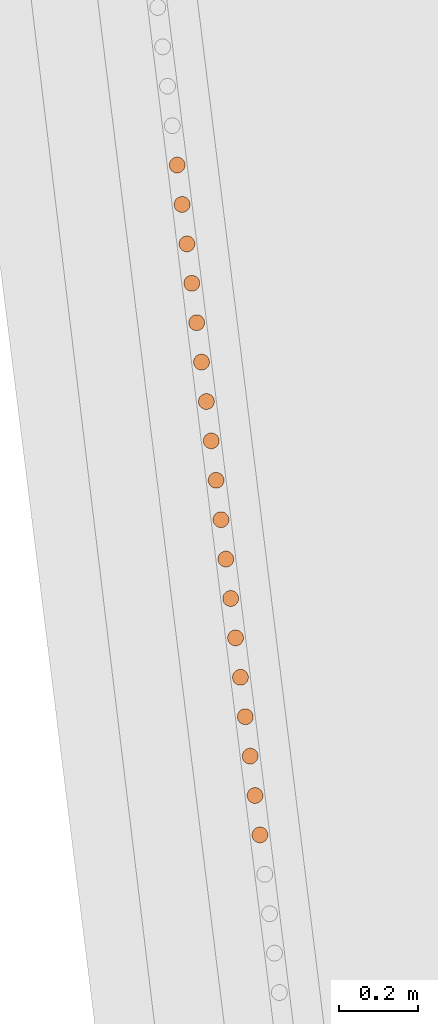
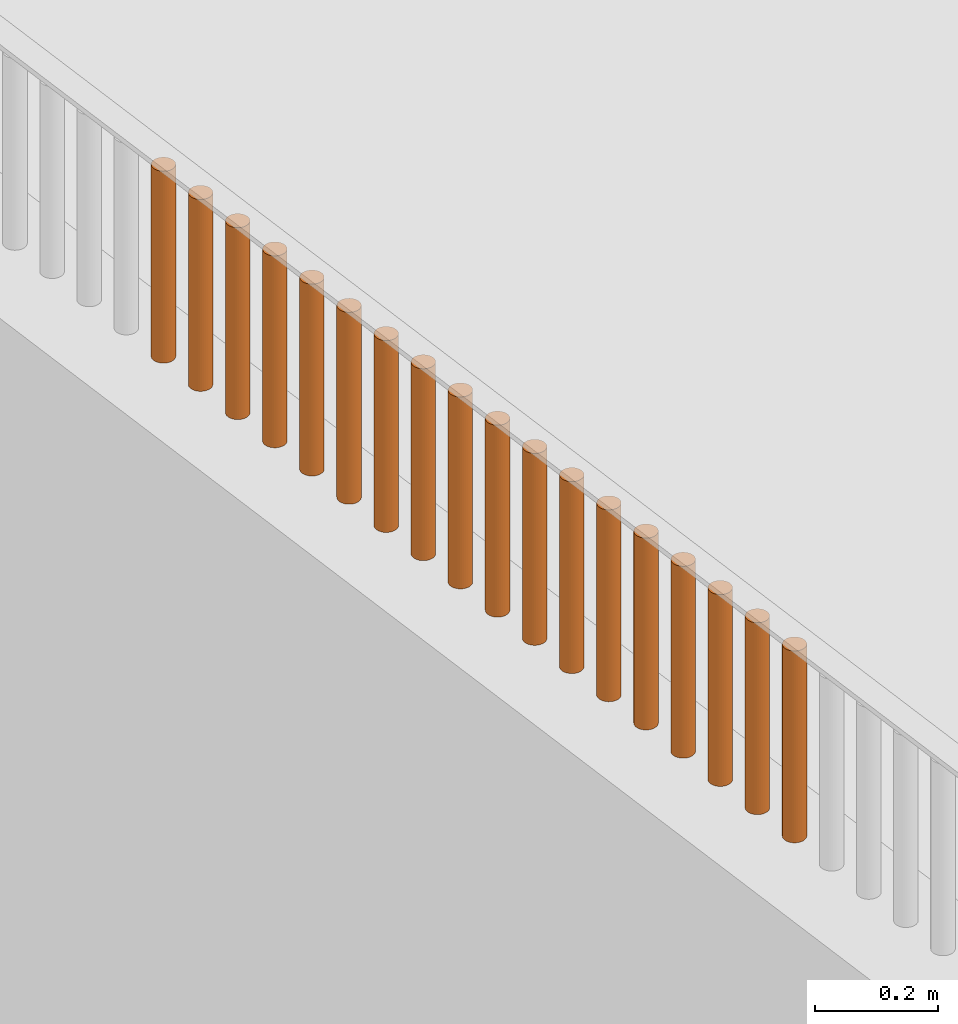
# One storey, part 221 of 1809: 18 proxies, 1 element without a shape of its own.
"""IFC2X3 building model written with IfcOpenShell, lengths in millimetres."""

from ifc_helpers import new_model, entity, si_unit, converted_unit, derived_unit, money_unit, direction, frame, origin_with_axes, place, context, subcontext, project, spatial, faceted_brep, source, transform, mapped, material, type_object, element, aggregate, save


model = new_model("IFC2X3")

# Units and contexts
model_context = context("Model", 3, precision=0.01, world=origin_with_axes(), true_north=direction((0.0, 1.0)))
body_context = subcontext(model_context, "Body", "Model", "MODEL_VIEW")
ifc_project = project(units=[si_unit("LENGTHUNIT", "METRE", prefix="MILLI"), si_unit("AREAUNIT", "SQUARE_METRE"), si_unit("VOLUMEUNIT", "CUBIC_METRE"), converted_unit("PLANEANGLEUNIT", "DEGREE", entity("IfcPlaneAngleMeasure", 0.0174532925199), si_unit("PLANEANGLEUNIT", "RADIAN"), dimensions=[0, 0, 0, 0, 0, 0, 0]), si_unit("SOLIDANGLEUNIT", "STERADIAN"), money_unit("EUR"), converted_unit("TIMEUNIT", "Year", entity("IfcTimeMeasure", 31556926.0), si_unit("TIMEUNIT", "SECOND"), dimensions=[0, 0, 1, 0, 0, 0, 0]), si_unit("MASSUNIT", "GRAM", prefix="KILO"), si_unit("THERMODYNAMICTEMPERATUREUNIT", "DEGREE_CELSIUS"), si_unit("LUMINOUSINTENSITYUNIT", "LUMEN"), si_unit("ENERGYUNIT", "JOULE", prefix="MEGA"), derived_unit("THERMALCONDUCTANCEUNIT", [(si_unit("POWERUNIT", "WATT"), 1), (si_unit("LENGTHUNIT", "METRE"), -1), (si_unit("THERMODYNAMICTEMPERATUREUNIT", "KELVIN"), -1)]), derived_unit("SPECIFICHEATCAPACITYUNIT", [(si_unit("ENERGYUNIT", "JOULE"), 1), (si_unit("MASSUNIT", "GRAM", prefix="KILO"), -1), (si_unit("THERMODYNAMICTEMPERATUREUNIT", "KELVIN"), -1)]), derived_unit("MASSDENSITYUNIT", [(si_unit("MASSUNIT", "GRAM", prefix="KILO"), 1), (si_unit("VOLUMEUNIT", "CUBIC_METRE"), -1)])], contexts=[model_context])

# Site, building, storey
site_placement = place(None, origin_with_axes())
site = spatial("IfcSite", under=ifc_project, at=site_placement, Name="Politse- ja Piirivalveameti ning Päästeameti ühishoone", CompositionType="ELEMENT")
building_placement = place(site_placement, origin_with_axes())
building = spatial("IfcBuilding", under=site, at=building_placement, Name="Politse- ja Piirivalveameti ning Päästeameti ühishoone", CompositionType="ELEMENT")
storey_placement = place(building_placement, origin_with_axes())
storey = spatial("IfcBuildingStorey", under=building, at=storey_placement, Name="Esimene korrus", CompositionType="ELEMENT", Elevation=0.0)

# Proxies
building_element_proxy_type_1 = type_object("IfcBuildingElementProxyType", Name="Railing Type", PredefinedType="NOTDEFINED")
proxy_1_placement = place(storey_placement, frame((-18956.5522504, -53688.4757966, 2100.0), z_axis=(0.0, 0.0, 1.0), x_axis=(1.0, 0.0, 0.0)))
proxy_1 = element("IfcBuildingElementProxy", 1, at=proxy_1_placement, inside=storey, type_object=building_element_proxy_type_1, Name="PIIRDEAED")
ifc_material = material(Name="ET-06_Teras - Konstruktsioon")
building_element_proxy_type_2 = type_object("IfcBuildingElementProxyType", Name="IfcBuildingElementProxy", PredefinedType="NOTDEFINED")
shared_shape_1 = source(origin_with_axes(), body_context, "Body", "Brep", [
    faceted_brep([(0.0, -20.0, 0.0), (3.47296355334, -19.6961550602, 0.0), (3.47296355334, -19.6961550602, 380.000012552), (0.0, -20.0, 380.000012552), (-3.47296355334, -19.6961550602, 0.0), (-6.84040286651, -18.7938524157, 0.0), (-10.0, -17.3205080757, 0.0), (-12.8557521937, -15.3208888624, 0.0), (-15.3208888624, -12.8557521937, 0.0), (-17.3205080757, -10.0, 0.0), (-18.7938524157, -6.84040286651, 0.0), (-19.6961550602, -3.47296355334, 0.0), (-20.0, 0.0, 0.0), (-19.6961550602, 3.47296355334, 0.0), (-18.7938524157, 6.84040286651, 0.0), (-17.3205080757, 10.0, 0.0), (-15.3208888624, 12.8557521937, 0.0), (-12.8557521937, 15.3208888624, 0.0), (-10.0, 17.3205080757, 0.0), (-6.84040286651, 18.7938524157, 0.0), (-3.47296355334, 19.6961550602, 0.0), (0.0, 20.0, 0.0), (3.47296355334, 19.6961550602, 0.0), (6.84040286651, 18.7938524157, 0.0), (10.0, 17.3205080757, 0.0), (12.8557521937, 15.3208888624, 0.0), (15.3208888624, 12.8557521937, 0.0), (17.3205080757, 10.0, 0.0), (18.7938524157, 6.84040286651, 0.0), (19.6961550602, 3.47296355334, 0.0), (20.0, 0.0, 0.0), (19.6961550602, -3.47296355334, 0.0), (18.7938524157, -6.84040286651, 0.0), (17.3205080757, -10.0, 0.0), (15.3208888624, -12.8557521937, 0.0), (12.8557521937, -15.3208888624, 0.0), (10.0, -17.3205080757, 0.0), (6.84040286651, -18.7938524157, 0.0), (6.84040286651, -18.7938524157, 380.000012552), (10.0, -17.3205080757, 380.000012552), (12.8557521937, -15.3208888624, 380.000012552), (15.3208888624, -12.8557521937, 380.000012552), (17.3205080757, -10.0, 380.000012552), (18.7938524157, -6.84040286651, 380.000012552), (19.6961550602, -3.47296355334, 380.000012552), (20.0, 0.0, 380.000012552), (19.6961550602, 3.47296355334, 380.000012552), (18.7938524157, 6.84040286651, 380.000012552), (17.3205080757, 10.0, 380.000012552), (15.3208888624, 12.8557521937, 380.000012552), (12.8557521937, 15.3208888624, 380.000012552), (10.0, 17.3205080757, 380.000012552), (6.84040286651, 18.7938524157, 380.000012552), (3.47296355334, 19.6961550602, 380.000012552), (0.0, 20.0, 380.000012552), (-3.47296355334, 19.6961550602, 380.000012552), (-6.84040286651, 18.7938524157, 380.000012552), (-10.0, 17.3205080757, 380.000012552), (-12.8557521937, 15.3208888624, 380.000012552), (-15.3208888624, 12.8557521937, 380.000012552), (-17.3205080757, 10.0, 380.000012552), (-18.7938524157, 6.84040286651, 380.000012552), (-19.6961550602, 3.47296355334, 380.000012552), (-20.0, 0.0, 380.000012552), (-19.6961550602, -3.47296355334, 380.000012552), (-18.7938524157, -6.84040286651, 380.000012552), (-17.3205080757, -10.0, 380.000012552), (-15.3208888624, -12.8557521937, 380.000012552), (-12.8557521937, -15.3208888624, 380.000012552), (-10.0, -17.3205080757, 380.000012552), (-6.84040286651, -18.7938524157, 380.000012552), (-3.47296355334, -19.6961550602, 380.000012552)], [[[0, 1, 2, 3]], [[0, 4, 5, 6, 7, 8, 9, 10, 11, 12, 13, 14, 15, 16, 17, 18, 19, 20, 21, 22, 23, 24, 25, 26, 27, 28, 29, 30, 31, 32, 33, 34, 35, 36, 37, 1]], [[1, 37, 38, 2]], [[3, 2, 38, 39, 40, 41, 42, 43, 44, 45, 46, 47, 48, 49, 50, 51, 52, 53, 54, 55, 56, 57, 58, 59, 60, 61, 62, 63, 64, 65, 66, 67, 68, 69, 70, 71]], [[4, 0, 3, 71]], [[5, 4, 71, 70]], [[6, 5, 70, 69]], [[7, 6, 69, 68]], [[8, 7, 68, 67]], [[9, 8, 67, 66]], [[10, 9, 66, 65]], [[11, 10, 65, 64]], [[12, 11, 64, 63]], [[13, 12, 63, 62]], [[14, 13, 62, 61]], [[15, 14, 61, 60]], [[16, 15, 60, 59]], [[17, 16, 59, 58]], [[18, 17, 58, 57]], [[19, 18, 57, 56]], [[20, 19, 56, 55]], [[21, 20, 55, 54]], [[22, 21, 54, 53]], [[23, 22, 53, 52]], [[24, 23, 52, 51]], [[25, 24, 51, 50]], [[26, 25, 50, 49]], [[27, 26, 49, 48]], [[28, 27, 48, 47]], [[29, 28, 47, 46]], [[30, 29, 46, 45]], [[31, 30, 45, 44]], [[32, 31, 44, 43]], [[33, 32, 43, 42]], [[34, 33, 42, 41]], [[35, 34, 41, 40]], [[36, 35, 40, 39]], [[37, 36, 39, 38]]]),
])
proxy_2_placement = place(proxy_1_placement, frame((-4404.21497214, 34846.8369069, -1.25517001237e-05), z_axis=(0.0, 0.0, 1.0), x_axis=(1.0, 0.0, 0.0)))
proxy_2 = element("IfcBuildingElementProxy", 2, at=proxy_2_placement, type_object=building_element_proxy_type_2, material=ifc_material, Name="BALUSTER - 001", context=body_context, shape_type="MappedRepresentation", body=[
    mapped(shared_shape_1, transform((0.0, 0.0, 0.0), x_axis=(0.992468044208, 0.122503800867, 0.0), y_axis=(-0.122503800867, 0.992468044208, 0.0), z_axis=(0.0, 0.0, 1.0))),
])
proxy_3_placement = place(proxy_1_placement, frame((-4428.71038197, 35045.2871697, -1.25517001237e-05), z_axis=(0.0, 0.0, 1.0), x_axis=(1.0, 0.0, 0.0)))
proxy_3 = element("IfcBuildingElementProxy", 3, at=proxy_3_placement, type_object=building_element_proxy_type_2, material=ifc_material, Name="BALUSTER - 001", context=body_context, shape_type="MappedRepresentation", body=[
    mapped(shared_shape_1, transform((0.0, 0.0, 0.0), x_axis=(0.992468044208, 0.122503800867, 0.0), y_axis=(-0.122503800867, 0.992468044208, 0.0), z_axis=(0.0, 0.0, 1.0))),
])
proxy_4_placement = place(proxy_1_placement, frame((-4514.44431636, 35739.8630897, -1.25517001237e-05), z_axis=(0.0, 0.0, 1.0), x_axis=(1.0, 0.0, 0.0)))
proxy_4 = element("IfcBuildingElementProxy", 4, at=proxy_4_placement, type_object=building_element_proxy_type_2, material=ifc_material, Name="BALUSTER - 001", context=body_context, shape_type="MappedRepresentation", body=[
    mapped(shared_shape_1, transform((0.0, 0.0, 0.0), x_axis=(0.992468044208, 0.122503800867, 0.0), y_axis=(-0.122503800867, 0.992468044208, 0.0), z_axis=(0.0, 0.0, 1.0))),
])
proxy_5_placement = place(proxy_1_placement, frame((-4538.93972619, 35938.3133525, -1.25517001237e-05), z_axis=(0.0, 0.0, 1.0), x_axis=(1.0, 0.0, 0.0)))
proxy_5 = element("IfcBuildingElementProxy", 5, at=proxy_5_placement, type_object=building_element_proxy_type_2, material=ifc_material, Name="BALUSTER - 001", context=body_context, shape_type="MappedRepresentation", body=[
    mapped(shared_shape_1, transform((0.0, 0.0, 0.0), x_axis=(0.992468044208, 0.122503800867, 0.0), y_axis=(-0.122503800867, 0.992468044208, 0.0), z_axis=(0.0, 0.0, 1.0))),
])
proxy_6_placement = place(proxy_1_placement, frame((-4551.1874311, 36037.538484, -1.25517001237e-05), z_axis=(0.0, 0.0, 1.0), x_axis=(1.0, 0.0, 0.0)))
proxy_6 = element("IfcBuildingElementProxy", 6, at=proxy_6_placement, type_object=building_element_proxy_type_2, material=ifc_material, Name="BALUSTER - 001", context=body_context, shape_type="MappedRepresentation", body=[
    mapped(shared_shape_1, transform((0.0, 0.0, 0.0), x_axis=(0.992468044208, 0.122503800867, 0.0), y_axis=(-0.122503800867, 0.992468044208, 0.0), z_axis=(0.0, 0.0, 1.0))),
])
proxy_7_placement = place(proxy_1_placement, frame((-4563.43513601, 36136.7636154, -1.25517001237e-05), z_axis=(0.0, 0.0, 1.0), x_axis=(1.0, 0.0, 0.0)))
proxy_7 = element("IfcBuildingElementProxy", 7, at=proxy_7_placement, type_object=building_element_proxy_type_2, material=ifc_material, Name="BALUSTER - 001", context=body_context, shape_type="MappedRepresentation", body=[
    mapped(shared_shape_1, transform((0.0, 0.0, 0.0), x_axis=(0.992468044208, 0.122503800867, 0.0), y_axis=(-0.122503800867, 0.992468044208, 0.0), z_axis=(0.0, 0.0, 1.0))),
])
proxy_8_placement = place(proxy_1_placement, frame((-4587.93054584, 36335.2138782, -1.25517001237e-05), z_axis=(0.0, 0.0, 1.0), x_axis=(1.0, 0.0, 0.0)))
proxy_8 = element("IfcBuildingElementProxy", 8, at=proxy_8_placement, type_object=building_element_proxy_type_2, material=ifc_material, Name="BALUSTER - 001", context=body_context, shape_type="MappedRepresentation", body=[
    mapped(shared_shape_1, transform((0.0, 0.0, 0.0), x_axis=(0.992468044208, 0.122503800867, 0.0), y_axis=(-0.122503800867, 0.992468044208, 0.0), z_axis=(0.0, 0.0, 1.0))),
])
shared_shape_2 = source(origin_with_axes(), body_context, "Body", "Brep", [
    faceted_brep([(0.0, -20.0, 0.0), (3.47296355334, -19.6961550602, 0.0), (3.47296355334, -19.6961550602, 380.000012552), (0.0, -20.0, 380.000012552), (-3.47296355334, -19.6961550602, 0.0), (-6.84040286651, -18.7938524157, 0.0), (-10.0, -17.3205080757, 0.0), (-12.8557521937, -15.3208888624, 0.0), (-15.3208888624, -12.8557521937, 0.0), (-17.3205080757, -10.0, 0.0), (-18.7938524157, -6.84040286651, 0.0), (-19.6961550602, -3.47296355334, 0.0), (-20.0, 0.0, 0.0), (-19.6961550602, 3.47296355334, 0.0), (-18.7938524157, 6.84040286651, 0.0), (-17.3205080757, 10.0, 0.0), (-15.3208888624, 12.8557521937, 0.0), (-12.8557521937, 15.3208888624, 0.0), (-10.0, 17.3205080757, 0.0), (-6.84040286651, 18.7938524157, 0.0), (-3.47296355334, 19.6961550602, 0.0), (0.0, 20.0, 0.0), (3.47296355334, 19.6961550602, 0.0), (6.84040286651, 18.7938524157, 0.0), (10.0, 17.3205080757, 0.0), (12.8557521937, 15.3208888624, 0.0), (15.3208888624, 12.8557521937, 0.0), (17.3205080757, 10.0, 0.0), (18.7938524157, 6.84040286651, 0.0), (19.6961550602, 3.47296355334, 0.0), (20.0, 0.0, 0.0), (19.6961550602, -3.47296355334, 0.0), (18.7938524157, -6.84040286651, 0.0), (17.3205080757, -10.0, 0.0), (15.3208888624, -12.8557521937, 0.0), (12.8557521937, -15.3208888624, 0.0), (10.0, -17.3205080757, 0.0), (6.84040286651, -18.7938524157, 0.0), (6.84040286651, -18.7938524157, 380.000012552), (10.0, -17.3205080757, 380.000012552), (12.8557521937, -15.3208888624, 380.000012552), (15.3208888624, -12.8557521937, 380.000012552), (17.3205080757, -10.0, 380.000012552), (18.7938524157, -6.84040286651, 380.000012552), (19.6961550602, -3.47296355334, 380.000012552), (20.0, 0.0, 380.000012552), (19.6961550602, 3.47296355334, 380.000012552), (18.7938524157, 6.84040286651, 380.000012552), (17.3205080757, 10.0, 380.000012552), (15.3208888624, 12.8557521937, 380.000012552), (12.8557521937, 15.3208888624, 380.000012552), (10.0, 17.3205080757, 380.000012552), (6.84040286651, 18.7938524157, 380.000012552), (3.47296355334, 19.6961550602, 380.000012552), (0.0, 20.0, 380.000012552), (-3.47296355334, 19.6961550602, 380.000012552), (-6.84040286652, 18.7938524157, 380.000012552), (-10.0, 17.3205080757, 380.000012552), (-12.8557521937, 15.3208888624, 380.000012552), (-15.3208888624, 12.8557521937, 380.000012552), (-17.3205080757, 10.0, 380.000012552), (-18.7938524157, 6.84040286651, 380.000012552), (-19.6961550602, 3.47296355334, 380.000012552), (-20.0, 0.0, 380.000012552), (-19.6961550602, -3.47296355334, 380.000012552), (-18.7938524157, -6.84040286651, 380.000012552), (-17.3205080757, -10.0, 380.000012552), (-15.3208888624, -12.8557521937, 380.000012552), (-12.8557521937, -15.3208888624, 380.000012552), (-10.0, -17.3205080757, 380.000012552), (-6.84040286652, -18.7938524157, 380.000012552), (-3.47296355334, -19.6961550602, 380.000012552)], [[[0, 1, 2, 3]], [[0, 4, 5, 6, 7, 8, 9, 10, 11, 12, 13, 14, 15, 16, 17, 18, 19, 20, 21, 22, 23, 24, 25, 26, 27, 28, 29, 30, 31, 32, 33, 34, 35, 36, 37, 1]], [[1, 37, 38, 2]], [[3, 2, 38, 39, 40, 41, 42, 43, 44, 45, 46, 47, 48, 49, 50, 51, 52, 53, 54, 55, 56, 57, 58, 59, 60, 61, 62, 63, 64, 65, 66, 67, 68, 69, 70, 71]], [[4, 0, 3, 71]], [[5, 4, 71, 70]], [[6, 5, 70, 69]], [[7, 6, 69, 68]], [[8, 7, 68, 67]], [[9, 8, 67, 66]], [[10, 9, 66, 65]], [[11, 10, 65, 64]], [[12, 11, 64, 63]], [[13, 12, 63, 62]], [[14, 13, 62, 61]], [[15, 14, 61, 60]], [[16, 15, 60, 59]], [[17, 16, 59, 58]], [[18, 17, 58, 57]], [[19, 18, 57, 56]], [[20, 19, 56, 55]], [[21, 20, 55, 54]], [[22, 21, 54, 53]], [[23, 22, 53, 52]], [[24, 23, 52, 51]], [[25, 24, 51, 50]], [[26, 25, 50, 49]], [[27, 26, 49, 48]], [[28, 27, 48, 47]], [[29, 28, 47, 46]], [[30, 29, 46, 45]], [[31, 30, 45, 44]], [[32, 31, 44, 43]], [[33, 32, 43, 42]], [[34, 33, 42, 41]], [[35, 34, 41, 40]], [[36, 35, 40, 39]], [[37, 36, 39, 38]]]),
])
proxy_9_placement = place(proxy_1_placement, frame((-4391.96726723, 34747.6117754, -1.25517001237e-05), z_axis=(0.0, 0.0, 1.0), x_axis=(1.0, 0.0, 0.0)))
proxy_9 = element("IfcBuildingElementProxy", 9, at=proxy_9_placement, type_object=building_element_proxy_type_2, material=ifc_material, Name="BALUSTER - 001", context=body_context, shape_type="MappedRepresentation", body=[
    mapped(shared_shape_2, transform((0.0, 0.0, 0.0), x_axis=(0.992468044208, 0.122503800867, 0.0), y_axis=(-0.122503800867, 0.992468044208, 0.0), z_axis=(0.0, 0.0, 1.0))),
])
proxy_10_placement = place(proxy_1_placement, frame((-4416.46267706, 34946.0620383, -1.25517001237e-05), z_axis=(0.0, 0.0, 1.0), x_axis=(1.0, 0.0, 0.0)))
proxy_10 = element("IfcBuildingElementProxy", 10, at=proxy_10_placement, type_object=building_element_proxy_type_2, material=ifc_material, Name="BALUSTER - 001", context=body_context, shape_type="MappedRepresentation", body=[
    mapped(shared_shape_2, transform((0.0, 0.0, 0.0), x_axis=(0.992468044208, 0.122503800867, 0.0), y_axis=(-0.122503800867, 0.992468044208, 0.0), z_axis=(0.0, 0.0, 1.0))),
])
shared_shape_3 = source(origin_with_axes(), body_context, "Body", "Brep", [
    faceted_brep([(0.0, -20.0, 0.0), (3.47296355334, -19.6961550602, 0.0), (3.47296355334, -19.6961550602, 380.000012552), (0.0, -20.0, 380.000012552), (-3.47296355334, -19.6961550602, 0.0), (-6.84040286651, -18.7938524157, 0.0), (-10.0, -17.3205080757, 0.0), (-12.8557521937, -15.3208888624, 0.0), (-15.3208888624, -12.8557521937, 0.0), (-17.3205080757, -10.0, 0.0), (-18.7938524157, -6.84040286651, 0.0), (-19.6961550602, -3.47296355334, 0.0), (-20.0, 0.0, 0.0), (-19.6961550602, 3.47296355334, 0.0), (-18.7938524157, 6.84040286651, 0.0), (-17.3205080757, 10.0, 0.0), (-15.3208888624, 12.8557521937, 0.0), (-12.8557521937, 15.3208888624, 0.0), (-10.0, 17.3205080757, 0.0), (-6.84040286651, 18.7938524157, 0.0), (-3.47296355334, 19.6961550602, 0.0), (0.0, 20.0, 0.0), (3.47296355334, 19.6961550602, 0.0), (6.84040286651, 18.7938524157, 0.0), (10.0, 17.3205080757, 0.0), (12.8557521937, 15.3208888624, 0.0), (15.3208888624, 12.8557521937, 0.0), (17.3205080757, 10.0, 0.0), (18.7938524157, 6.84040286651, 0.0), (19.6961550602, 3.47296355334, 0.0), (20.0, 0.0, 0.0), (19.6961550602, -3.47296355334, 0.0), (18.7938524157, -6.84040286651, 0.0), (17.3205080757, -10.0, 0.0), (15.3208888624, -12.8557521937, 0.0), (12.8557521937, -15.3208888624, 0.0), (10.0, -17.3205080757, 0.0), (6.84040286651, -18.7938524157, 0.0), (6.84040286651, -18.7938524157, 380.000012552), (10.0, -17.3205080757, 380.000012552), (12.8557521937, -15.3208888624, 380.000012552), (15.3208888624, -12.8557521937, 380.000012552), (17.3205080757, -10.0, 380.000012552), (18.7938524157, -6.84040286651, 380.000012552), (19.6961550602, -3.47296355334, 380.000012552), (20.0, 0.0, 380.000012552), (19.6961550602, 3.47296355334, 380.000012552), (18.7938524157, 6.84040286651, 380.000012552), (17.3205080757, 10.0, 380.000012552), (15.3208888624, 12.8557521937, 380.000012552), (12.8557521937, 15.3208888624, 380.000012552), (10.0, 17.3205080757, 380.000012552), (6.84040286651, 18.7938524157, 380.000012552), (3.47296355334, 19.6961550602, 380.000012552), (0.0, 20.0, 380.000012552), (-3.47296355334, 19.6961550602, 380.000012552), (-6.84040286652, 18.7938524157, 380.000012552), (-10.0, 17.3205080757, 380.000012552), (-12.8557521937, 15.3208888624, 380.000012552), (-15.3208888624, 12.8557521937, 380.000012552), (-17.3205080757, 10.0, 380.000012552), (-18.7938524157, 6.84040286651, 380.000012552), (-19.6961550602, 3.47296355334, 380.000012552), (-20.0, 0.0, 380.000012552), (-19.6961550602, -3.47296355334, 380.000012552), (-18.7938524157, -6.84040286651, 380.000012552), (-17.3205080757, -10.0, 380.000012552), (-15.3208888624, -12.8557521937, 380.000012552), (-12.8557521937, -15.3208888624, 380.000012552), (-10.0, -17.3205080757, 380.000012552), (-6.84040286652, -18.7938524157, 380.000012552), (-3.47296355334, -19.6961550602, 380.000012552)], [[[0, 1, 2, 3]], [[0, 4, 5, 6, 7, 8, 9, 10, 11, 12, 13, 14, 15, 16, 17, 18, 19, 20, 21, 22, 23, 24, 25, 26, 27, 28, 29, 30, 31, 32, 33, 34, 35, 36, 37, 1]], [[1, 37, 38, 2]], [[3, 2, 38, 39, 40, 41, 42, 43, 44, 45, 46, 47, 48, 49, 50, 51, 52, 53, 54, 55, 56, 57, 58, 59, 60, 61, 62, 63, 64, 65, 66, 67, 68, 69, 70, 71]], [[4, 0, 3, 71]], [[5, 4, 71, 70]], [[6, 5, 70, 69]], [[7, 6, 69, 68]], [[8, 7, 68, 67]], [[9, 8, 67, 66]], [[10, 9, 66, 65]], [[11, 10, 65, 64]], [[12, 11, 64, 63]], [[13, 12, 63, 62]], [[14, 13, 62, 61]], [[15, 14, 61, 60]], [[16, 15, 60, 59]], [[17, 16, 59, 58]], [[18, 17, 58, 57]], [[19, 18, 57, 56]], [[20, 19, 56, 55]], [[21, 20, 55, 54]], [[22, 21, 54, 53]], [[23, 22, 53, 52]], [[24, 23, 52, 51]], [[25, 24, 51, 50]], [[26, 25, 50, 49]], [[27, 26, 49, 48]], [[28, 27, 48, 47]], [[29, 28, 47, 46]], [[30, 29, 46, 45]], [[31, 30, 45, 44]], [[32, 31, 44, 43]], [[33, 32, 43, 42]], [[34, 33, 42, 41]], [[35, 34, 41, 40]], [[36, 35, 40, 39]], [[37, 36, 39, 38]]]),
])
proxy_11_placement = place(proxy_1_placement, frame((-4440.95808688, 35144.5123011, -1.25517001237e-05), z_axis=(0.0, 0.0, 1.0), x_axis=(1.0, 0.0, 0.0)))
proxy_11 = element("IfcBuildingElementProxy", 11, at=proxy_11_placement, type_object=building_element_proxy_type_2, material=ifc_material, Name="BALUSTER - 001", context=body_context, shape_type="MappedRepresentation", body=[
    mapped(shared_shape_3, transform((0.0, 0.0, 0.0), x_axis=(0.992468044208, 0.122503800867, 0.0), y_axis=(-0.122503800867, 0.992468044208, 0.0), z_axis=(0.0, 0.0, 1.0))),
])
proxy_12_placement = place(proxy_1_placement, frame((-4600.17825075, 36434.4390097, -1.25517001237e-05), z_axis=(0.0, 0.0, 1.0), x_axis=(1.0, 0.0, 0.0)))
proxy_12 = element("IfcBuildingElementProxy", 12, at=proxy_12_placement, type_object=building_element_proxy_type_2, material=ifc_material, Name="BALUSTER - 001", context=body_context, shape_type="MappedRepresentation", body=[
    mapped(shared_shape_3, transform((0.0, 0.0, 0.0), x_axis=(0.992468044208, 0.122503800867, 0.0), y_axis=(-0.122503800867, 0.992468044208, 0.0), z_axis=(0.0, 0.0, 1.0))),
])
shared_shape_4 = source(origin_with_axes(), body_context, "Body", "Brep", [
    faceted_brep([(0.0, -20.0, 0.0), (3.47296355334, -19.6961550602, 0.0), (3.47296355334, -19.6961550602, 380.000012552), (0.0, -20.0, 380.000012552), (-3.47296355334, -19.6961550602, 0.0), (-6.84040286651, -18.7938524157, 0.0), (-10.0, -17.3205080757, 0.0), (-12.8557521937, -15.3208888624, 0.0), (-15.3208888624, -12.8557521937, 0.0), (-17.3205080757, -10.0, 0.0), (-18.7938524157, -6.84040286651, 0.0), (-19.6961550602, -3.47296355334, 0.0), (-20.0, 0.0, 0.0), (-19.6961550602, 3.47296355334, 0.0), (-18.7938524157, 6.84040286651, 0.0), (-17.3205080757, 10.0, 0.0), (-15.3208888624, 12.8557521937, 0.0), (-12.8557521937, 15.3208888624, 0.0), (-10.0, 17.3205080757, 0.0), (-6.84040286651, 18.7938524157, 0.0), (-3.47296355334, 19.6961550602, 0.0), (0.0, 20.0, 0.0), (3.47296355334, 19.6961550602, 0.0), (6.84040286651, 18.7938524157, 0.0), (10.0, 17.3205080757, 0.0), (12.8557521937, 15.3208888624, 0.0), (15.3208888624, 12.8557521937, 0.0), (17.3205080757, 10.0, 0.0), (18.7938524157, 6.84040286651, 0.0), (19.6961550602, 3.47296355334, 0.0), (20.0, 0.0, 0.0), (19.6961550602, -3.47296355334, 0.0), (18.7938524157, -6.84040286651, 0.0), (17.3205080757, -10.0, 0.0), (15.3208888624, -12.8557521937, 0.0), (12.8557521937, -15.3208888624, 0.0), (10.0, -17.3205080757, 0.0), (6.84040286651, -18.7938524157, 0.0), (6.84040286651, -18.7938524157, 380.000012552), (10.0, -17.3205080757, 380.000012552), (12.8557521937, -15.3208888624, 380.000012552), (15.3208888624, -12.8557521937, 380.000012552), (17.3205080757, -10.0, 380.000012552), (18.7938524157, -6.84040286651, 380.000012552), (19.6961550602, -3.47296355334, 380.000012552), (20.0, 0.0, 380.000012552), (19.6961550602, 3.47296355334, 380.000012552), (18.7938524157, 6.84040286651, 380.000012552), (17.3205080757, 10.0, 380.000012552), (15.3208888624, 12.8557521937, 380.000012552), (12.8557521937, 15.3208888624, 380.000012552), (10.0, 17.3205080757, 380.000012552), (6.84040286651, 18.7938524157, 380.000012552), (3.47296355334, 19.6961550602, 380.000012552), (0.0, 20.0, 380.000012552), (-3.47296355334, 19.6961550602, 380.000012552), (-6.84040286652, 18.7938524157, 380.000012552), (-10.0, 17.3205080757, 380.000012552), (-12.8557521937, 15.3208888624, 380.000012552), (-15.3208888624, 12.8557521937, 380.000012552), (-17.3205080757, 10.0, 380.000012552), (-18.7938524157, 6.84040286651, 380.000012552), (-19.6961550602, 3.47296355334, 380.000012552), (-20.0, 0.0, 380.000012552), (-19.6961550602, -3.47296355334, 380.000012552), (-18.7938524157, -6.84040286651, 380.000012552), (-17.3205080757, -10.0, 380.000012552), (-15.3208888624, -12.8557521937, 380.000012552), (-12.8557521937, -15.3208888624, 380.000012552), (-10.0, -17.3205080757, 380.000012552), (-6.84040286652, -18.7938524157, 380.000012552), (-3.47296355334, -19.6961550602, 380.000012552)], [[[0, 1, 2, 3]], [[0, 4, 5, 6, 7, 8, 9, 10, 11, 12, 13, 14, 15, 16, 17, 18, 19, 20, 21, 22, 23, 24, 25, 26, 27, 28, 29, 30, 31, 32, 33, 34, 35, 36, 37, 1]], [[1, 37, 38, 2]], [[3, 2, 38, 39, 40, 41, 42, 43, 44, 45, 46, 47, 48, 49, 50, 51, 52, 53, 54, 55, 56, 57, 58, 59, 60, 61, 62, 63, 64, 65, 66, 67, 68, 69, 70, 71]], [[4, 0, 3, 71]], [[5, 4, 71, 70]], [[6, 5, 70, 69]], [[7, 6, 69, 68]], [[8, 7, 68, 67]], [[9, 8, 67, 66]], [[10, 9, 66, 65]], [[11, 10, 65, 64]], [[12, 11, 64, 63]], [[13, 12, 63, 62]], [[14, 13, 62, 61]], [[15, 14, 61, 60]], [[16, 15, 60, 59]], [[17, 16, 59, 58]], [[18, 17, 58, 57]], [[19, 18, 57, 56]], [[20, 19, 56, 55]], [[21, 20, 55, 54]], [[22, 21, 54, 53]], [[23, 22, 53, 52]], [[24, 23, 52, 51]], [[25, 24, 51, 50]], [[26, 25, 50, 49]], [[27, 26, 49, 48]], [[28, 27, 48, 47]], [[29, 28, 47, 46]], [[30, 29, 46, 45]], [[31, 30, 45, 44]], [[32, 31, 44, 43]], [[33, 32, 43, 42]], [[34, 33, 42, 41]], [[35, 34, 41, 40]], [[36, 35, 40, 39]], [[37, 36, 39, 38]]]),
])
proxy_13_placement = place(proxy_1_placement, frame((-4453.2057918, 35243.7374326, -1.25517001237e-05), z_axis=(0.0, 0.0, 1.0), x_axis=(1.0, 0.0, 0.0)))
proxy_13 = element("IfcBuildingElementProxy", 13, at=proxy_13_placement, type_object=building_element_proxy_type_2, material=ifc_material, Name="BALUSTER - 001", context=body_context, shape_type="MappedRepresentation", body=[
    mapped(shared_shape_4, transform((0.0, 0.0, 0.0), x_axis=(0.992468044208, 0.122503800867, 0.0), y_axis=(-0.122503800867, 0.992468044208, 0.0), z_axis=(0.0, 0.0, 1.0))),
])
proxy_14_placement = place(proxy_1_placement, frame((-4465.45349671, 35342.962564, -1.25517001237e-05), z_axis=(0.0, 0.0, 1.0), x_axis=(1.0, 0.0, 0.0)))
proxy_14 = element("IfcBuildingElementProxy", 14, at=proxy_14_placement, type_object=building_element_proxy_type_2, material=ifc_material, Name="BALUSTER - 001", context=body_context, shape_type="MappedRepresentation", body=[
    mapped(shared_shape_4, transform((0.0, 0.0, 0.0), x_axis=(0.992468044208, 0.122503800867, 0.0), y_axis=(-0.122503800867, 0.992468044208, 0.0), z_axis=(0.0, 0.0, 1.0))),
])
proxy_15_placement = place(proxy_1_placement, frame((-4477.70120162, 35442.1876954, -1.25517001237e-05), z_axis=(0.0, 0.0, 1.0), x_axis=(1.0, 0.0, 0.0)))
proxy_15 = element("IfcBuildingElementProxy", 15, at=proxy_15_placement, type_object=building_element_proxy_type_2, material=ifc_material, Name="BALUSTER - 001", context=body_context, shape_type="MappedRepresentation", body=[
    mapped(shared_shape_4, transform((0.0, 0.0, 0.0), x_axis=(0.992468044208, 0.122503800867, 0.0), y_axis=(-0.122503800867, 0.992468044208, 0.0), z_axis=(0.0, 0.0, 1.0))),
])
proxy_16_placement = place(proxy_1_placement, frame((-4489.94890653, 35541.4128268, -1.25517001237e-05), z_axis=(0.0, 0.0, 1.0), x_axis=(1.0, 0.0, 0.0)))
proxy_16 = element("IfcBuildingElementProxy", 16, at=proxy_16_placement, type_object=building_element_proxy_type_2, material=ifc_material, Name="BALUSTER - 001", context=body_context, shape_type="MappedRepresentation", body=[
    mapped(shared_shape_4, transform((0.0, 0.0, 0.0), x_axis=(0.992468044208, 0.122503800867, 0.0), y_axis=(-0.122503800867, 0.992468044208, 0.0), z_axis=(0.0, 0.0, 1.0))),
])
proxy_17_placement = place(proxy_1_placement, frame((-4502.19661145, 35640.6379583, -1.25517001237e-05), z_axis=(0.0, 0.0, 1.0), x_axis=(1.0, 0.0, 0.0)))
proxy_17 = element("IfcBuildingElementProxy", 17, at=proxy_17_placement, type_object=building_element_proxy_type_2, material=ifc_material, Name="BALUSTER - 001", context=body_context, shape_type="MappedRepresentation", body=[
    mapped(shared_shape_4, transform((0.0, 0.0, 0.0), x_axis=(0.992468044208, 0.122503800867, 0.0), y_axis=(-0.122503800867, 0.992468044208, 0.0), z_axis=(0.0, 0.0, 1.0))),
])
shared_shape_5 = source(origin_with_axes(), body_context, "Body", "Brep", [
    faceted_brep([(0.0, -20.0, 0.0), (3.47296355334, -19.6961550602, 0.0), (3.47296355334, -19.6961550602, 380.000012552), (0.0, -20.0, 380.000012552), (-3.47296355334, -19.6961550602, 0.0), (-6.84040286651, -18.7938524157, 0.0), (-10.0, -17.3205080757, 0.0), (-12.8557521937, -15.3208888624, 0.0), (-15.3208888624, -12.8557521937, 0.0), (-17.3205080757, -10.0, 0.0), (-18.7938524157, -6.84040286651, 0.0), (-19.6961550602, -3.47296355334, 0.0), (-20.0, 0.0, 0.0), (-19.6961550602, 3.47296355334, 0.0), (-18.7938524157, 6.84040286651, 0.0), (-17.3205080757, 10.0, 0.0), (-15.3208888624, 12.8557521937, 0.0), (-12.8557521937, 15.3208888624, 0.0), (-10.0, 17.3205080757, 0.0), (-6.84040286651, 18.7938524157, 0.0), (-3.47296355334, 19.6961550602, 0.0), (0.0, 20.0, 0.0), (3.47296355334, 19.6961550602, 0.0), (6.84040286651, 18.7938524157, 0.0), (10.0, 17.3205080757, 0.0), (12.8557521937, 15.3208888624, 0.0), (15.3208888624, 12.8557521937, 0.0), (17.3205080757, 10.0, 0.0), (18.7938524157, 6.84040286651, 0.0), (19.6961550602, 3.47296355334, 0.0), (20.0, 0.0, 0.0), (19.6961550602, -3.47296355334, 0.0), (18.7938524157, -6.84040286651, 0.0), (17.3205080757, -10.0, 0.0), (15.3208888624, -12.8557521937, 0.0), (12.8557521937, -15.3208888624, 0.0), (10.0, -17.3205080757, 0.0), (6.84040286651, -18.7938524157, 0.0), (6.84040286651, -18.7938524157, 380.000012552), (10.0, -17.3205080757, 380.000012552), (12.8557521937, -15.3208888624, 380.000012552), (15.3208888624, -12.8557521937, 380.000012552), (17.3205080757, -10.0, 380.000012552), (18.7938524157, -6.84040286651, 380.000012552), (19.6961550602, -3.47296355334, 380.000012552), (20.0, 0.0, 380.000012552), (19.6961550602, 3.47296355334, 380.000012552), (18.7938524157, 6.84040286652, 380.000012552), (17.3205080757, 10.0, 380.000012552), (15.3208888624, 12.8557521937, 380.000012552), (12.8557521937, 15.3208888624, 380.000012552), (10.0, 17.3205080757, 380.000012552), (6.84040286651, 18.7938524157, 380.000012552), (3.47296355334, 19.6961550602, 380.000012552), (0.0, 20.0, 380.000012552), (-3.47296355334, 19.6961550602, 380.000012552), (-6.84040286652, 18.7938524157, 380.000012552), (-10.0, 17.3205080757, 380.000012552), (-12.8557521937, 15.3208888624, 380.000012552), (-15.3208888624, 12.8557521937, 380.000012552), (-17.3205080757, 10.0, 380.000012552), (-18.7938524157, 6.84040286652, 380.000012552), (-19.6961550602, 3.47296355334, 380.000012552), (-20.0, 0.0, 380.000012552), (-19.6961550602, -3.47296355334, 380.000012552), (-18.7938524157, -6.84040286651, 380.000012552), (-17.3205080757, -10.0, 380.000012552), (-15.3208888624, -12.8557521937, 380.000012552), (-12.8557521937, -15.3208888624, 380.000012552), (-10.0, -17.3205080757, 380.000012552), (-6.84040286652, -18.7938524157, 380.000012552), (-3.47296355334, -19.6961550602, 380.000012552)], [[[0, 1, 2, 3]], [[0, 4, 5, 6, 7, 8, 9, 10, 11, 12, 13, 14, 15, 16, 17, 18, 19, 20, 21, 22, 23, 24, 25, 26, 27, 28, 29, 30, 31, 32, 33, 34, 35, 36, 37, 1]], [[1, 37, 38, 2]], [[3, 2, 38, 39, 40, 41, 42, 43, 44, 45, 46, 47, 48, 49, 50, 51, 52, 53, 54, 55, 56, 57, 58, 59, 60, 61, 62, 63, 64, 65, 66, 67, 68, 69, 70, 71]], [[4, 0, 3, 71]], [[5, 4, 71, 70]], [[6, 5, 70, 69]], [[7, 6, 69, 68]], [[8, 7, 68, 67]], [[9, 8, 67, 66]], [[10, 9, 66, 65]], [[11, 10, 65, 64]], [[12, 11, 64, 63]], [[13, 12, 63, 62]], [[14, 13, 62, 61]], [[15, 14, 61, 60]], [[16, 15, 60, 59]], [[17, 16, 59, 58]], [[18, 17, 58, 57]], [[19, 18, 57, 56]], [[20, 19, 56, 55]], [[21, 20, 55, 54]], [[22, 21, 54, 53]], [[23, 22, 53, 52]], [[24, 23, 52, 51]], [[25, 24, 51, 50]], [[26, 25, 50, 49]], [[27, 26, 49, 48]], [[28, 27, 48, 47]], [[29, 28, 47, 46]], [[30, 29, 46, 45]], [[31, 30, 45, 44]], [[32, 31, 44, 43]], [[33, 32, 43, 42]], [[34, 33, 42, 41]], [[35, 34, 41, 40]], [[36, 35, 40, 39]], [[37, 36, 39, 38]]]),
])
proxy_18_placement = place(proxy_1_placement, frame((-4526.69202127, 35839.0882211, -1.25517001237e-05), z_axis=(0.0, 0.0, 1.0), x_axis=(1.0, 0.0, 0.0)))
proxy_18 = element("IfcBuildingElementProxy", 18, at=proxy_18_placement, type_object=building_element_proxy_type_2, material=ifc_material, Name="BALUSTER - 001", context=body_context, shape_type="MappedRepresentation", body=[
    mapped(shared_shape_5, transform((0.0, 0.0, 0.0), x_axis=(0.992468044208, 0.122503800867, 0.0), y_axis=(-0.122503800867, 0.992468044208, 0.0), z_axis=(0.0, 0.0, 1.0))),
])
proxy_19_placement = place(proxy_1_placement, frame((-4575.68284093, 36235.9887468, -1.25517001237e-05), z_axis=(0.0, 0.0, 1.0), x_axis=(1.0, 0.0, 0.0)))
proxy_19 = element("IfcBuildingElementProxy", 19, at=proxy_19_placement, type_object=building_element_proxy_type_2, material=ifc_material, Name="BALUSTER - 001", context=body_context, shape_type="MappedRepresentation", body=[
    mapped(shared_shape_5, transform((0.0, 0.0, 0.0), x_axis=(0.992468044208, 0.122503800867, 0.0), y_axis=(-0.122503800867, 0.992468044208, 0.0), z_axis=(0.0, 0.0, 1.0))),
])
aggregate(proxy_1, [proxy_9, proxy_2, proxy_10, proxy_3, proxy_11, proxy_13, proxy_14, proxy_15, proxy_16, proxy_17, proxy_4, proxy_18, proxy_5, proxy_6, proxy_7, proxy_19, proxy_8, proxy_12])

save(model, "model.ifc")
